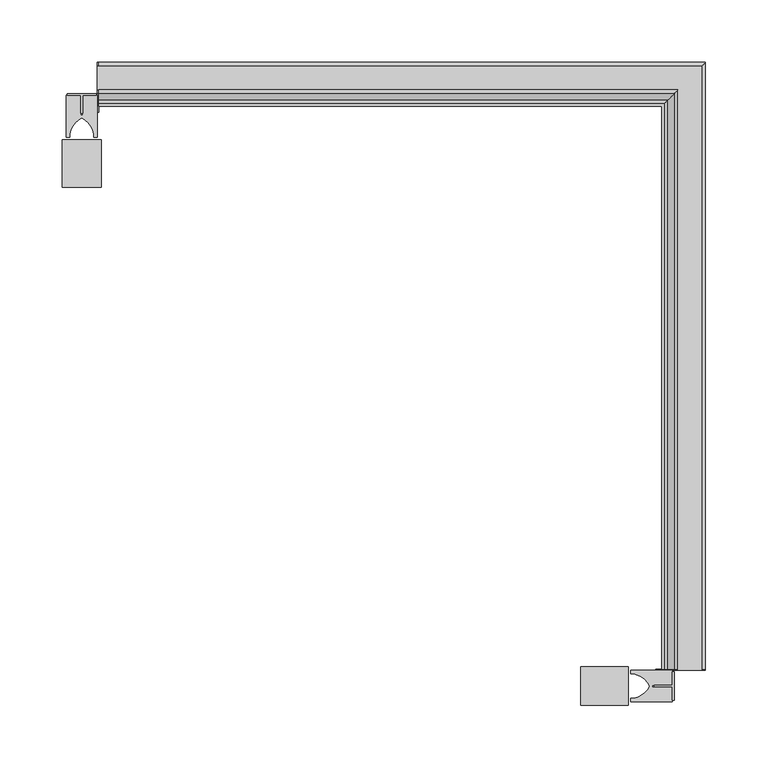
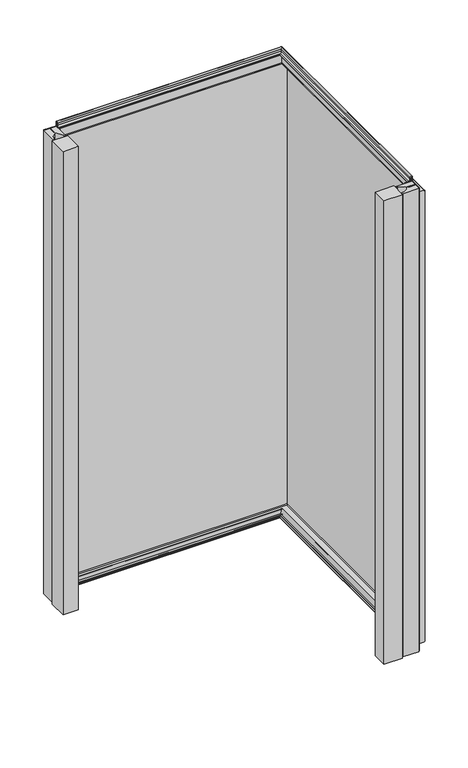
"""IFC4 building model written with IfcOpenShell, lengths in millimetres: plate geometry, Угловой модуль Fronttop : Угловой модуль Fronttop 100/1000."""

from ifc_helpers import new_model, si_unit, point, frame, frame_2d, origin, origin_with_axes, place, context, project, spatial, polyline, circle_curve, ellipse_curve, trimmed, segment, composite_curve, outline, extrude, source, transform, mapped, element, save
from ifc_brep_helpers import plane_surface, cylinder_surface, revolved_surface, advanced_brep


def plate_e8e85041(model_context):
    return source(origin(), model_context, "Body", "SolidModel", [
        extrude(outline(polyline([(225.0, -388.4948846), (225.0, -411.5051154), (223.5, -411.5051154), (223.5, -400.6502496), (209.0759655, -400.6502496), (209.0759655, -399.35), (223.5, -399.35), (223.5, -388.4948846), (225.0, -388.4948846)])), origin_with_axes(), (0.0, 0.0, 1.0), 1000.0),
        extrude(outline(composite_curve([segment(polyline([(223.5, -387.4998455), (223.5, -399.25), (207.5, -399.25), (207.5, -400.75), (223.5, -400.75), (223.5, -412.5001545), (190.0, -412.5001545), (190.0, -409.75), (192.5, -409.75)]), True, "CONTINUOUS"), segment(trimmed(circle_curve(frame_2d((189.3183984, -391.9661979)), 18.0661619), [point((192.5, -409.75))], [point((205.5, -400.0))], True, "CARTESIAN"), True, "CONTINUOUS"), segment(trimmed(circle_curve(frame_2d((189.3183984, -408.0338021)), 18.0661619), [point((205.5, -400.0))], [point((192.5, -390.25))], True, "CARTESIAN"), True, "CONTINUOUS"), segment(polyline([(192.5, -390.25), (190.0, -390.25), (190.0, -387.4998455), (223.5, -387.4998455)]), True, "CONTINUOUS")], self_intersect=False)), origin_with_axes(), (0.0, 0.0, 1.0), 1000.0),
        extrude(outline(polyline([(150.0, -415.5), (150.0, -384.5), (188.0, -384.5), (188.0, -415.5), (150.0, -415.5)])), origin_with_axes(), (0.0, 0.0, 1.0), 1000.0),
        extrude(outline(polyline([(-261.5051154, 75.0), (-238.4948846, 75.0), (-238.4948846, 73.5), (-249.3497504, 73.5), (-249.3497504, 59.0759655), (-250.65, 59.0759655), (-250.65, 73.5), (-261.5051154, 73.5), (-261.5051154, 75.0)])), origin_with_axes(), (0.0, 0.0, 1.0), 1000.0),
        extrude(outline(composite_curve([segment(polyline([(-262.5001545, 73.5), (-250.75, 73.5), (-250.75, 57.5), (-249.25, 57.5), (-249.25, 73.5), (-237.4998455, 73.5), (-237.4998455, 40.0), (-240.25, 40.0), (-240.25, 42.5)]), True, "CONTINUOUS"), segment(trimmed(circle_curve(frame_2d((-258.0338021, 39.3183984)), 18.0661619), [point((-240.25, 42.5))], [point((-250.0, 55.5))], True, "CARTESIAN"), True, "CONTINUOUS"), segment(trimmed(circle_curve(frame_2d((-241.9661979, 39.3183984)), 18.0661619), [point((-250.0, 55.5))], [point((-259.75, 42.5))], True, "CARTESIAN"), True, "CONTINUOUS"), segment(polyline([(-259.75, 42.5), (-259.75, 40.0), (-262.5001545, 40.0), (-262.5001545, 73.5)]), True, "CONTINUOUS")], self_intersect=False)), origin_with_axes(), (0.0, 0.0, 1.0), 1000.0),
        extrude(outline(polyline([(-234.5, 0.0), (-265.5, 0.0), (-265.5, 38.0), (-234.5, 38.0), (-234.5, 0.0)])), origin_with_axes(), (0.0, 0.0, 1.0), 1000.0),
        advanced_brep(
        [(-236.5, 74.0, 1008.0), (-236.5, 71.0, 1008.0), (-236.5, 71.0, 1004.0), (-236.5, 67.0, 1000.0), (-236.5, 65.0, 1000.0), (-236.5, 65.0, 1001.0), (-236.5, 67.0, 1001.0), (-236.5, 70.0, 1004.0), (-236.5, 70.0, 1008.0), (-236.5, 75.0, 1008.0), (-236.5, 75.0, 1000.0), (-236.5, 74.0, 1000.0), (-236.5, 65.0, 2.0), (215.0, 65.0, 2.0), (215.0, 65.0, 3.0), (-236.5, 65.0, 3.0), (215.0, -386.5, 3.0), (217.0, -386.5, 3.0), (217.0, 67.0, 3.0), (-236.5, 67.0, 3.0), (218.0, 68.0, 4.0), (-236.5, 68.0, 4.0), (218.0, 68.0, 8.0), (-236.5, 68.0, 8.0), (227.0, 77.0, 8.0), (-236.5, 77.0, 8.0), (227.0, 77.0, 0.0), (-236.5, 77.0, 0.0), (229.0, 79.0, -2.0), (-236.5, 79.0, -2.0), (229.0, -386.5, -2.0), (247.0, -386.5, -2.0), (247.0, 97.0, -2.0), (-236.5, 97.0, -2.0), (249.0, 99.0, 0.0), (-236.5, 99.0, 0.0), (249.0, 99.0, 969.0), (-236.5, 99.0, 969.0), (247.0, 97.0, 971.0), (-236.5, 97.0, 971.0), (247.0, -386.5, 971.0), (228.0, -386.5, 971.0), (228.0, 78.0, 971.0), (-236.5, 78.0, 971.0), (224.0, 74.0, 975.0), (-236.5, 74.0, 975.0), (224.0, 74.0, 1008.0), (221.0, 71.0, 1008.0), (221.0, 71.0, 1004.0), (217.0, 67.0, 1000.0), (217.0, -386.5, 1000.0), (215.0, -386.5, 1000.0), (215.0, 65.0, 1000.0), (215.0, 65.0, 1001.0), (215.0, -386.5, 1001.0), (217.0, -386.5, 1001.0), (217.0, 67.0, 1001.0), (220.0, 70.0, 1004.0), (220.0, 70.0, 1008.0), (225.0, 75.0, 1008.0), (225.0, 75.0, 975.0), (-236.5, 75.0, 975.0), (-237.5, 75.0, 975.0), (-237.5, 75.0, 1000.0), (228.0, 78.0, 972.0), (-236.5, 78.0, 972.0), (228.0, -386.5, 972.0), (228.0, -387.5, 972.0), (247.0, -387.5, 972.0), (247.0, -386.5, 972.0), (247.0, 97.0, 972.0), (-236.5, 97.0, 972.0), (-237.5, 97.0, 972.0), (-237.5, 78.0, 972.0), (250.0, 100.0, 969.0), (-236.5, 100.0, 969.0), (250.0, 100.0, 0.0), (-236.5, 100.0, 0.0), (-237.5, 100.0, 0.0), (-237.5, 100.0, 969.0), (247.0, 97.0, -3.0), (-236.5, 97.0, -3.0), (247.0, -386.5, -3.0), (247.0, -387.5, -3.0), (225.0, -387.5, -3.0), (225.0, -386.5, -3.0), (229.0, -386.5, -3.0), (229.0, 79.0, -3.0), (-236.5, 79.0, -3.0), (-236.5, 75.0, -3.0), (-237.5, 75.0, -3.0), (-237.5, 97.0, -3.0), (226.0, 76.0, 0.0), (-236.5, 76.0, 0.0), (226.0, 76.0, 8.0), (-236.5, 76.0, 8.0), (219.0, 69.0, 8.0), (-236.5, 69.0, 8.0), (219.0, 69.0, 4.0), (-236.5, 69.0, 4.0), (217.0, 67.0, 2.0), (-236.5, 67.0, 2.0), (217.0, -386.5, 2.0), (215.0, -386.5, 2.0), (221.0, -386.5, 1004.0), (221.0, -386.5, 1008.0), (224.0, -386.5, 1008.0), (224.0, -386.5, 1000.0), (225.0, -386.5, 1000.0), (225.0, -386.5, 1008.0), (220.0, -386.5, 1008.0), (220.0, -386.5, 1004.0), (218.0, -386.5, 4.0), (218.0, -386.5, 8.0), (227.0, -386.5, 8.0), (227.0, -386.5, 0.0), (249.0, -386.5, 0.0), (249.0, -386.5, 969.0), (224.0, -386.5, 975.0), (225.0, -387.5, 1000.0), (225.0, -387.5, 975.0), (225.0, -386.5, 975.0), (250.0, -386.5, 969.0), (250.0, -387.5, 969.0), (250.0, -387.5, 0.0), (250.0, -386.5, 0.0), (226.0, -386.5, 0.0), (226.0, -386.5, 8.0), (219.0, -386.5, 8.0), (219.0, -386.5, 4.0), (-236.5, 60.0, 1000.0), (-236.5, 60.0, 0.0), (-236.5, 75.0, 0.0), (-237.5, 75.0, 0.0), (-237.5, 60.0, 0.0), (-237.5, 60.0, 1000.0), (210.0, -386.5, 0.0), (210.0, -386.5, 1000.0), (225.0, -386.5, 0.0), (210.0, -387.5, 0.0), (225.0, -387.5, 0.0), (210.0, -387.5, 1000.0)],
        [
            (0, 1, circle_curve(frame((-236.5, 72.5, 1008.0), z_axis=(1.0, 0.0, 0.0), x_axis=(0.0, -1.0, 0.0)), 1.5)),
            (1, 2),
            (2, 3, circle_curve(frame((-236.5, 67.0, 1004.0), z_axis=(-1.0, 0.0, 0.0), x_axis=(0.0, -1.0, 0.0)), 4.0)),
            (3, 4),
            (4, 5),
            (5, 6),
            (6, 7, circle_curve(frame((-236.5, 67.0, 1004.0), z_axis=(1.0, 0.0, 0.0), x_axis=(0.0, -1.0, 0.0)), 3.0)),
            (7, 8),
            (8, 9, circle_curve(frame((-236.5, 72.5, 1008.0), z_axis=(-1.0, 0.0, 0.0), x_axis=(0.0, -1.0, 0.0)), 2.5)),
            (9, 10),
            (10, 11),
            (11, 0),
            (12, 13),
            (13, 14),
            (14, 15),
            (15, 12),
            (14, 16),
            (16, 17),
            (17, 18),
            (18, 19),
            (19, 15),
            (18, 20, ellipse_curve(frame((217.0, 67.0, 4.0), z_axis=(0.7071067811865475, -0.7071067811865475, 0.0), x_axis=(0.7071067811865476, 0.7071067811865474, 0.0)), 1.4142136, 1.0)),
            (20, 21),
            (21, 19, circle_curve(frame((-236.5, 67.0, 4.0), z_axis=(-1.0, 0.0, 0.0), x_axis=(0.0, -1.0, 0.0)), 1.0)),
            (20, 22),
            (22, 23),
            (23, 21),
            (22, 24, ellipse_curve(frame((222.5, 72.5, 8.0), z_axis=(-0.7071067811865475, 0.7071067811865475, 0.0), x_axis=(-0.7071067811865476, -0.7071067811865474, 0.0)), 6.363961, 4.5)),
            (24, 25),
            (25, 23, circle_curve(frame((-236.5, 72.5, 8.0), z_axis=(1.0, 0.0, 0.0), x_axis=(0.0, -1.0, 0.0)), 4.5)),
            (24, 26),
            (26, 27),
            (27, 25),
            (26, 28, ellipse_curve(frame((229.0, 79.0, 0.0), z_axis=(0.7071067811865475, -0.7071067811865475, 0.0), x_axis=(0.7071067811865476, 0.7071067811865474, 0.0)), 2.8284271, 2.0)),
            (28, 29),
            (29, 27, circle_curve(frame((-236.5, 79.0, 0.0), z_axis=(-1.0, 0.0, 0.0), x_axis=(0.0, -1.0, 0.0)), 2.0)),
            (28, 30),
            (30, 31),
            (31, 32),
            (32, 33),
            (33, 29),
            (32, 34, ellipse_curve(frame((247.0, 97.0, 0.0), z_axis=(0.7071067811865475, -0.7071067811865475, 0.0), x_axis=(0.7071067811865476, 0.7071067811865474, 0.0)), 2.8284271, 2.0)),
            (34, 35),
            (35, 33, circle_curve(frame((-236.5, 97.0, 0.0), z_axis=(-1.0, 0.0, 0.0), x_axis=(0.0, -1.0, 0.0)), 2.0)),
            (34, 36),
            (36, 37),
            (37, 35),
            (36, 38, ellipse_curve(frame((247.0, 97.0, 969.0), z_axis=(0.7071067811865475, -0.7071067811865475, 0.0), x_axis=(0.7071067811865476, 0.7071067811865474, 0.0)), 2.8284271, 2.0)),
            (38, 39),
            (39, 37, circle_curve(frame((-236.5, 97.0, 969.0), z_axis=(-1.0, 0.0, 0.0), x_axis=(0.0, -1.0, 0.0)), 2.0)),
            (38, 40),
            (40, 41),
            (41, 42),
            (42, 43),
            (43, 39),
            (42, 44, ellipse_curve(frame((228.0, 78.0, 975.0), z_axis=(-0.7071067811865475, 0.7071067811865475, 0.0), x_axis=(-0.7071067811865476, -0.7071067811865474, 0.0)), 5.6568542, 4.0)),
            (44, 45),
            (45, 43, circle_curve(frame((-236.5, 78.0, 975.0), z_axis=(1.0, 0.0, 0.0), x_axis=(0.0, -1.0, 0.0)), 4.0)),
            (44, 46),
            (46, 0),
            (11, 45),
            (46, 47, ellipse_curve(frame((222.5, 72.5, 1008.0), z_axis=(0.7071067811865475, -0.7071067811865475, 0.0), x_axis=(0.7071067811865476, 0.7071067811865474, 0.0)), 2.1213203, 1.5)),
            (47, 1),
            (47, 48),
            (48, 2),
            (48, 49, ellipse_curve(frame((217.0, 67.0, 1004.0), z_axis=(-0.7071067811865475, 0.7071067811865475, 0.0), x_axis=(-0.7071067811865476, -0.7071067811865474, 0.0)), 5.6568542, 4.0)),
            (49, 3),
            (49, 50),
            (50, 51),
            (51, 52),
            (52, 4),
            (4, 3),
            (52, 53),
            (53, 5),
            (53, 54),
            (54, 55),
            (55, 56),
            (56, 6),
            (56, 57, ellipse_curve(frame((217.0, 67.0, 1004.0), z_axis=(0.7071067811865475, -0.7071067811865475, 0.0), x_axis=(0.7071067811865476, 0.7071067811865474, 0.0)), 4.2426407, 3.0)),
            (57, 7),
            (57, 58),
            (58, 8),
            (58, 59, ellipse_curve(frame((222.5, 72.5, 1008.0), z_axis=(-0.7071067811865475, 0.7071067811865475, 0.0), x_axis=(-0.7071067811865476, -0.7071067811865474, 0.0)), 3.5355339, 2.5)),
            (59, 9),
            (59, 60),
            (60, 61),
            (61, 62),
            (62, 63),
            (63, 10),
            (60, 64, ellipse_curve(frame((228.0, 78.0, 975.0), z_axis=(0.7071067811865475, -0.7071067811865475, 0.0), x_axis=(0.7071067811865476, 0.7071067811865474, 0.0)), 4.2426407, 3.0)),
            (64, 65),
            (65, 61, circle_curve(frame((-236.5, 78.0, 975.0), z_axis=(-1.0, 0.0, 0.0), x_axis=(0.0, -1.0, 0.0)), 3.0)),
            (64, 66),
            (66, 67),
            (67, 68),
            (68, 69),
            (69, 70),
            (70, 71),
            (71, 72),
            (72, 73),
            (73, 65),
            (70, 74, ellipse_curve(frame((247.0, 97.0, 969.0), z_axis=(-0.7071067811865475, 0.7071067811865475, 0.0), x_axis=(-0.7071067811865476, -0.7071067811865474, 0.0)), 4.2426407, 3.0)),
            (74, 75),
            (75, 71, circle_curve(frame((-236.5, 97.0, 969.0), z_axis=(1.0, 0.0, 0.0), x_axis=(0.0, -1.0, 0.0)), 3.0)),
            (74, 76),
            (76, 77),
            (77, 78),
            (78, 79),
            (79, 75),
            (76, 80, ellipse_curve(frame((247.0, 97.0, 0.0), z_axis=(-0.7071067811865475, 0.7071067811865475, 0.0), x_axis=(-0.7071067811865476, -0.7071067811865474, 0.0)), 4.2426407, 3.0)),
            (80, 81),
            (81, 77, circle_curve(frame((-236.5, 97.0, 0.0), z_axis=(1.0, 0.0, 0.0), x_axis=(0.0, -1.0, 0.0)), 3.0)),
            (80, 82),
            (82, 83),
            (83, 84),
            (84, 85),
            (85, 86),
            (86, 87),
            (87, 88),
            (88, 89),
            (89, 90),
            (90, 91),
            (91, 81),
            (87, 92, ellipse_curve(frame((229.0, 79.0, 0.0), z_axis=(-0.7071067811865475, 0.7071067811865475, 0.0), x_axis=(-0.7071067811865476, -0.7071067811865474, 0.0)), 4.2426407, 3.0)),
            (92, 93),
            (93, 88, circle_curve(frame((-236.5, 79.0, 0.0), z_axis=(1.0, 0.0, 0.0), x_axis=(0.0, -1.0, 0.0)), 3.0)),
            (92, 94),
            (94, 95),
            (95, 93),
            (94, 96, ellipse_curve(frame((222.5, 72.5, 8.0), z_axis=(0.7071067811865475, -0.7071067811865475, 0.0), x_axis=(0.7071067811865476, 0.7071067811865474, 0.0)), 4.9497475, 3.5)),
            (96, 97),
            (97, 95, circle_curve(frame((-236.5, 72.5, 8.0), z_axis=(-1.0, 0.0, 0.0), x_axis=(0.0, -1.0, 0.0)), 3.5)),
            (96, 98),
            (98, 99),
            (99, 97),
            (98, 100, ellipse_curve(frame((217.0, 67.0, 4.0), z_axis=(-0.7071067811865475, 0.7071067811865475, 0.0), x_axis=(-0.7071067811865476, -0.7071067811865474, 0.0)), 2.8284271, 2.0)),
            (100, 101),
            (101, 99, circle_curve(frame((-236.5, 67.0, 4.0), z_axis=(1.0, 0.0, 0.0), x_axis=(0.0, -1.0, 0.0)), 2.0)),
            (12, 101),
            (100, 102),
            (102, 103),
            (103, 13),
            (54, 51),
            (51, 50),
            (50, 104, circle_curve(frame((217.0, -386.5, 1004.0), z_axis=(0.0, -1.0, 0.0), x_axis=(-1.0, 0.0, 0.0)), 4.0)),
            (104, 105),
            (105, 106, circle_curve(frame((222.5, -386.5, 1008.0), z_axis=(0.0, 1.0, 0.0), x_axis=(-1.0, 0.0, 0.0)), 1.5)),
            (106, 107),
            (107, 108),
            (108, 109),
            (109, 110, circle_curve(frame((222.5, -386.5, 1008.0), z_axis=(0.0, -1.0, 0.0), x_axis=(-1.0, 0.0, 0.0)), 2.5)),
            (110, 111),
            (111, 55, circle_curve(frame((217.0, -386.5, 1004.0), z_axis=(0.0, 1.0, 0.0), x_axis=(-1.0, 0.0, 0.0)), 3.0)),
            (103, 16),
            (17, 112, circle_curve(frame((217.0, -386.5, 4.0), z_axis=(0.0, -1.0, 0.0), x_axis=(-1.0, 0.0, 0.0)), 1.0)),
            (112, 20),
            (112, 113),
            (113, 22),
            (113, 114, circle_curve(frame((222.5, -386.5, 8.0), z_axis=(0.0, 1.0, 0.0), x_axis=(-1.0, 0.0, 0.0)), 4.5)),
            (114, 24),
            (114, 115),
            (115, 26),
            (115, 30, circle_curve(frame((229.0, -386.5, 0.0), z_axis=(0.0, -1.0, 0.0), x_axis=(-1.0, 0.0, 0.0)), 2.0)),
            (31, 116, circle_curve(frame((247.0, -386.5, 0.0), z_axis=(0.0, -1.0, 0.0), x_axis=(-1.0, 0.0, 0.0)), 2.0)),
            (116, 34),
            (116, 117),
            (117, 36),
            (117, 40, circle_curve(frame((247.0, -386.5, 969.0), z_axis=(0.0, -1.0, 0.0), x_axis=(-1.0, 0.0, 0.0)), 2.0)),
            (41, 118, circle_curve(frame((228.0, -386.5, 975.0), z_axis=(0.0, 1.0, 0.0), x_axis=(-1.0, 0.0, 0.0)), 4.0)),
            (118, 44),
            (118, 107),
            (106, 46),
            (105, 47),
            (104, 48),
            (111, 57),
            (110, 58),
            (109, 59),
            (108, 119),
            (119, 120),
            (120, 121),
            (121, 60),
            (121, 66, circle_curve(frame((228.0, -386.5, 975.0), z_axis=(0.0, -1.0, 0.0), x_axis=(-1.0, 0.0, 0.0)), 3.0)),
            (69, 122, circle_curve(frame((247.0, -386.5, 969.0), z_axis=(0.0, 1.0, 0.0), x_axis=(-1.0, 0.0, 0.0)), 3.0)),
            (122, 74),
            (122, 123),
            (123, 124),
            (124, 125),
            (125, 76),
            (125, 82, circle_curve(frame((247.0, -386.5, 0.0), z_axis=(0.0, 1.0, 0.0), x_axis=(-1.0, 0.0, 0.0)), 3.0)),
            (86, 126, circle_curve(frame((229.0, -386.5, 0.0), z_axis=(0.0, 1.0, 0.0), x_axis=(-1.0, 0.0, 0.0)), 3.0)),
            (126, 92),
            (126, 127),
            (127, 94),
            (127, 128, circle_curve(frame((222.5, -386.5, 8.0), z_axis=(0.0, -1.0, 0.0), x_axis=(-1.0, 0.0, 0.0)), 3.5)),
            (128, 96),
            (128, 129),
            (129, 98),
            (129, 102, circle_curve(frame((217.0, -386.5, 4.0), z_axis=(0.0, 1.0, 0.0), x_axis=(-1.0, 0.0, 0.0)), 2.0)),
            (130, 131),
            (131, 132),
            (132, 89),
            (11, 3),
            (4, 130),
            (62, 73, circle_curve(frame((-237.5, 78.0, 975.0), z_axis=(1.0, 0.0, 0.0), x_axis=(0.0, 1.0, 0.0)), 3.0)),
            (72, 79, circle_curve(frame((-237.5, 97.0, 969.0), z_axis=(-1.0, 0.0, 0.0), x_axis=(0.0, 1.0, 0.0)), 3.0)),
            (78, 91, circle_curve(frame((-237.5, 97.0, 0.0), z_axis=(-1.0, 0.0, 0.0), x_axis=(0.0, 1.0, 0.0)), 3.0)),
            (90, 133),
            (133, 134),
            (134, 135),
            (135, 63),
            (135, 130),
            (134, 131),
            (133, 132),
            (136, 137),
            (137, 51),
            (50, 107),
            (85, 138),
            (138, 136),
            (139, 140),
            (140, 84),
            (83, 124, circle_curve(frame((247.0, -387.5, 0.0), z_axis=(0.0, -1.0, 0.0), x_axis=(-1.0, 0.0, 0.0)), 3.0)),
            (123, 68, circle_curve(frame((247.0, -387.5, 969.0), z_axis=(0.0, -1.0, 0.0), x_axis=(-1.0, 0.0, 0.0)), 3.0)),
            (67, 120, circle_curve(frame((228.0, -387.5, 975.0), z_axis=(0.0, 1.0, 0.0), x_axis=(-1.0, 0.0, 0.0)), 3.0)),
            (119, 141),
            (141, 139),
            (138, 140),
            (139, 136),
            (137, 141),
        ],
        [
            plane_surface(frame((-236.5, 0.0, 0.0), z_axis=(-1.0, 0.0, 0.0), x_axis=(0.0, 0.0, 1.0))),
            plane_surface(frame((-236.5, 65.0, 2.0), z_axis=(0.0, -1.0, 0.0), x_axis=(1.0, 0.0, 0.0))),
            plane_surface(frame((-236.5, 65.0, 3.0), z_axis=(0.0, 0.0, 1.0), x_axis=(1.0, 0.0, 0.0))),
            revolved_surface(polyline([(218.00000002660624, 66.0, 4.0), (-236.5, 66.0, 4.0)]), (-236.5, 67.0, 4.0), (1.0, 0.0, 0.0)),
            plane_surface(frame((-236.5, 68.0, 4.0), z_axis=(0.0, -1.0, 0.0), x_axis=(1.0, 0.0, 0.0))),
            cylinder_surface(frame((-236.5, 72.5, 8.0), z_axis=(-1.0, 0.0, 0.0), x_axis=(0.0, -1.0, 0.0)), 4.5),
            plane_surface(frame((-236.5, 77.0, 8.0), z_axis=(0.0, 1.0, 0.0), x_axis=(1.0, 0.0, 0.0))),
            revolved_surface(polyline([(230.99999998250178, 77.0, 0.0), (-236.5, 77.0, 0.0)]), (-236.5, 79.0, 0.0), (1.0, 0.0, 0.0)),
            plane_surface(frame((-236.5, 79.0, -2.0), z_axis=(0.0, 0.0, 1.0), x_axis=(1.0, 0.0, 0.0))),
            revolved_surface(polyline([(249.0, 95.0, 0.0), (-236.5, 95.0, 0.0)]), (-236.5, 97.0, 0.0), (1.0, 0.0, 0.0)),
            plane_surface(frame((-236.5, 99.0, 0.0), z_axis=(0.0, -1.0, 0.0), x_axis=(1.0, 0.0, 0.0))),
            revolved_surface(polyline([(249.0, 95.0, 969.0), (-236.5, 95.0, 969.0)]), (-236.5, 97.0, 969.0), (1.0, 0.0, 0.0)),
            plane_surface(frame((-236.5, 97.0, 971.0), z_axis=(0.0, 0.0, -1.0), x_axis=(1.0, 0.0, 0.0))),
            cylinder_surface(frame((-236.5, 78.0, 975.0), z_axis=(-1.0, 0.0, 0.0), x_axis=(0.0, -1.0, 0.0)), 4.0),
            plane_surface(frame((-236.5, 74.0, 975.0), z_axis=(0.0, -1.0, 0.0), x_axis=(1.0, 0.0, 0.0))),
            revolved_surface(polyline([(224.0, 71.0, 1008.0), (-236.5, 71.0, 1008.0)]), (-236.5, 72.5, 1008.0), (1.0, 0.0, 0.0)),
            plane_surface(frame((-236.5, 71.0, 1008.0), z_axis=(0.0, 1.0, 0.0), x_axis=(1.0, 0.0, 0.0))),
            cylinder_surface(frame((-236.5, 67.0, 1004.0), z_axis=(-1.0, 0.0, 0.0), x_axis=(0.0, -1.0, 0.0)), 4.0),
            plane_surface(frame((-236.5, 67.0, 1000.0), z_axis=(0.0, 0.0, -1.0), x_axis=(1.0, 0.0, 0.0))),
            plane_surface(frame((-236.5, 65.0, 1000.0), z_axis=(0.0, -1.0, 0.0), x_axis=(1.0, 0.0, 0.0))),
            plane_surface(frame((-236.5, 65.0, 1001.0), z_axis=(0.0, 0.0, 1.0), x_axis=(1.0, 0.0, 0.0))),
            revolved_surface(polyline([(220.00000000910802, 64.0, 1004.0), (-236.5, 64.0, 1004.0)]), (-236.5, 67.0, 1004.0), (1.0, 0.0, 0.0)),
            plane_surface(frame((-236.5, 70.0, 1004.0), z_axis=(0.0, -1.0, 0.0), x_axis=(1.0, 0.0, 0.0))),
            cylinder_surface(frame((-236.5, 72.5, 1008.0), z_axis=(-1.0, 0.0, 0.0), x_axis=(0.0, -1.0, 0.0)), 2.5),
            plane_surface(frame((-236.5, 75.0, 1008.0), z_axis=(0.0, 1.0, 0.0), x_axis=(1.0, 0.0, 0.0))),
            revolved_surface(polyline([(231.00000000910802, 75.0, 975.0), (-236.5, 75.0, 975.0)]), (-236.5, 78.0, 975.0), (1.0, 0.0, 0.0)),
            plane_surface(frame((-236.5, 78.0, 972.0), z_axis=(0.0, 0.0, 1.0), x_axis=(1.0, 0.0, 0.0))),
            cylinder_surface(frame((-236.5, 97.0, 969.0), z_axis=(-1.0, 0.0, 0.0), x_axis=(0.0, -1.0, 0.0)), 3.0),
            plane_surface(frame((-236.5, 100.0, 969.0), z_axis=(0.0, 1.0, 0.0), x_axis=(1.0, 0.0, 0.0))),
            cylinder_surface(frame((-236.5, 97.0, 0.0), z_axis=(-1.0, 0.0, 0.0), x_axis=(0.0, -1.0, 0.0)), 3.0),
            plane_surface(frame((-236.5, 97.0, -3.0), z_axis=(0.0, 0.0, -1.0), x_axis=(1.0, 0.0, 0.0))),
            cylinder_surface(frame((-236.5, 79.0, 0.0), z_axis=(-1.0, 0.0, 0.0), x_axis=(0.0, -1.0, 0.0)), 3.0),
            plane_surface(frame((-236.5, 76.0, 0.0), z_axis=(0.0, -1.0, 0.0), x_axis=(1.0, 0.0, 0.0))),
            revolved_surface(polyline([(226.00000002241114, 69.0, 8.0), (-236.5, 69.0, 8.0)]), (-236.5, 72.5, 8.0), (1.0, 0.0, 0.0)),
            plane_surface(frame((-236.5, 69.0, 8.0), z_axis=(0.0, 1.0, 0.0), x_axis=(1.0, 0.0, 0.0))),
            cylinder_surface(frame((-236.5, 67.0, 4.0), z_axis=(-1.0, 0.0, 0.0), x_axis=(0.0, -1.0, 0.0)), 2.0),
            plane_surface(frame((-236.5, 67.0, 2.0), z_axis=(0.0, 0.0, -1.0), x_axis=(1.0, 0.0, 0.0))),
            plane_surface(frame((150.0, -386.5, 0.0), z_axis=(0.0, -1.0, 0.0), x_axis=(0.0, 0.0, 1.0))),
            plane_surface(frame((215.0, 65.0, 2.0), z_axis=(-1.0, 0.0, 0.0), x_axis=(0.0, -1.0, 0.0))),
            revolved_surface(polyline([(216.0, -386.5, 4.0), (216.0, 68.00000002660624, 4.0)]), (217.0, 0.0, 4.0), (0.0, -1.0, 0.0)),
            plane_surface(frame((218.0, 68.0, 4.0), z_axis=(-1.0, 0.0, 0.0), x_axis=(0.0, -1.0, 0.0))),
            cylinder_surface(frame((222.5, 0.0, 8.0), z_axis=(0.0, 1.0, 0.0), x_axis=(-1.0, 0.0, 0.0)), 4.5),
            plane_surface(frame((227.0, 77.0, 8.0), z_axis=(1.0, 0.0, 0.0), x_axis=(0.0, -1.0, 0.0))),
            revolved_surface(polyline([(227.0, -386.5, 0.0), (227.0, 80.9999999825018, 0.0)]), (229.0, 0.0, 0.0), (0.0, -1.0, 0.0)),
            revolved_surface(polyline([(245.0, -386.5, 0.0), (245.0, 99.0, 0.0)]), (247.0, 0.0, 0.0), (0.0, -1.0, 0.0)),
            plane_surface(frame((249.0, 99.0, 0.0), z_axis=(-1.0, 0.0, 0.0), x_axis=(0.0, -1.0, 0.0))),
            revolved_surface(polyline([(245.0, -386.5, 969.0), (245.0, 99.0, 969.0)]), (247.0, 0.0, 969.0), (0.0, -1.0, 0.0)),
            cylinder_surface(frame((228.0, 0.0, 975.0), z_axis=(0.0, 1.0, 0.0), x_axis=(-1.0, 0.0, 0.0)), 4.0),
            plane_surface(frame((224.0, 74.0, 975.0), z_axis=(-1.0, 0.0, 0.0), x_axis=(0.0, -1.0, 0.0))),
            revolved_surface(polyline([(221.0, -386.5, 1008.0), (221.0, 74.0, 1008.0)]), (222.5, 0.0, 1008.0), (0.0, -1.0, 0.0)),
            plane_surface(frame((221.0, 71.0, 1008.0), z_axis=(1.0, 0.0, 0.0), x_axis=(0.0, -1.0, 0.0))),
            cylinder_surface(frame((217.0, 0.0, 1004.0), z_axis=(0.0, 1.0, 0.0), x_axis=(-1.0, 0.0, 0.0)), 4.0),
            plane_surface(frame((215.0, 65.0, 1000.0), z_axis=(-1.0, 0.0, 0.0), x_axis=(0.0, -1.0, 0.0))),
            revolved_surface(polyline([(214.0, -386.5, 1004.0), (214.0, 70.00000000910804, 1004.0)]), (217.0, 0.0, 1004.0), (0.0, -1.0, 0.0)),
            plane_surface(frame((220.0, 70.0, 1004.0), z_axis=(-1.0, 0.0, 0.0), x_axis=(0.0, -1.0, 0.0))),
            cylinder_surface(frame((222.5, 0.0, 1008.0), z_axis=(0.0, 1.0, 0.0), x_axis=(-1.0, 0.0, 0.0)), 2.5),
            plane_surface(frame((225.0, 75.0, 1008.0), z_axis=(1.0, 0.0, 0.0), x_axis=(0.0, -1.0, 0.0))),
            revolved_surface(polyline([(225.0, -386.5, 975.0), (225.0, 81.00000000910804, 975.0)]), (228.0, 0.0, 975.0), (0.0, -1.0, 0.0)),
            cylinder_surface(frame((247.0, 0.0, 969.0), z_axis=(0.0, 1.0, 0.0), x_axis=(-1.0, 0.0, 0.0)), 3.0),
            plane_surface(frame((250.0, 100.0, 969.0), z_axis=(1.0, 0.0, 0.0), x_axis=(0.0, -1.0, 0.0))),
            cylinder_surface(frame((247.0, 0.0, 0.0), z_axis=(0.0, 1.0, 0.0), x_axis=(-1.0, 0.0, 0.0)), 3.0),
            cylinder_surface(frame((229.0, 0.0, 0.0), z_axis=(0.0, 1.0, 0.0), x_axis=(-1.0, 0.0, 0.0)), 3.0),
            plane_surface(frame((226.0, 76.0, 0.0), z_axis=(-1.0, 0.0, 0.0), x_axis=(0.0, -1.0, 0.0))),
            revolved_surface(polyline([(219.0, -386.5, 8.0), (219.0, 76.00000002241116, 8.0)]), (222.5, 0.0, 8.0), (0.0, -1.0, 0.0)),
            plane_surface(frame((219.0, 69.0, 8.0), z_axis=(1.0, 0.0, 0.0), x_axis=(0.0, -1.0, 0.0))),
            cylinder_surface(frame((217.0, 0.0, 4.0), z_axis=(0.0, 1.0, 0.0), x_axis=(-1.0, 0.0, 0.0)), 2.0),
            plane_surface(frame((-236.5, 75.0, 1000.0), z_axis=(1.0, 0.0, 0.0), x_axis=(0.0, -1.0, 0.0))),
            plane_surface(frame((-237.5, 75.0, 1000.0), z_axis=(-1.0, 0.0, 0.0), x_axis=(0.0, 1.0, 0.0))),
            plane_surface(frame((-236.5, 75.0, 1000.0), z_axis=(0.0, 0.0, 1.0), x_axis=(-1.0, 0.0, 0.0))),
            plane_surface(frame((-236.5, 60.0, 1000.0), z_axis=(0.0, -1.0, 0.0), x_axis=(-1.0, 0.0, 0.0))),
            plane_surface(frame((-236.5, 60.0, 0.0), z_axis=(0.0, 0.0, -1.0), x_axis=(-1.0, 0.0, 0.0))),
            plane_surface(frame((-236.5, 75.0, 0.0), z_axis=(0.0, -1.0, 0.0), x_axis=(-1.0, 0.0, 0.0))),
            cylinder_surface(frame((-237.5, 97.0, 0.0), z_axis=(1.0, 0.0, 0.0), x_axis=(0.0, 1.0, 0.0)), 3.0),
            cylinder_surface(frame((-237.5, 97.0, 969.0), z_axis=(1.0, 0.0, 0.0), x_axis=(0.0, 1.0, 0.0)), 3.0),
            revolved_surface(polyline([(-237.5, 81.0, 975.0), (-236.5, 81.0, 975.0)]), (-237.5, 78.0, 975.0), (-1.0, 0.0, 0.0)),
            plane_surface(frame((210.0, -386.5, 1000.0), z_axis=(0.0, 1.0, 0.0), x_axis=(0.0, 0.0, 1.0))),
            plane_surface(frame((210.0, -387.5, 1000.0), z_axis=(0.0, -1.0, 0.0), x_axis=(0.0, 0.0, -1.0))),
            plane_surface(frame((225.0, -386.5, 0.0), z_axis=(0.0, 0.0, -1.0), x_axis=(0.0, -1.0, 0.0))),
            plane_surface(frame((225.0, -386.5, -3.0), z_axis=(-1.0, 0.0, 0.0), x_axis=(0.0, -1.0, 0.0))),
            cylinder_surface(frame((247.0, -387.5, 0.0), z_axis=(0.0, 1.0, 0.0), x_axis=(-1.0, 0.0, 0.0)), 3.0),
            cylinder_surface(frame((247.0, -387.5, 969.0), z_axis=(0.0, 1.0, 0.0), x_axis=(-1.0, 0.0, 0.0)), 3.0),
            revolved_surface(polyline([(225.0, -387.5, 975.0), (225.0, -386.5, 975.0)]), (228.0, -387.5, 975.0), (0.0, -1.0, 0.0)),
            plane_surface(frame((210.0, -386.5, 1000.0), z_axis=(0.0, 0.0, 1.0), x_axis=(0.0, -1.0, 0.0))),
            plane_surface(frame((210.0, -386.5, 0.0), z_axis=(-1.0, 0.0, 0.0), x_axis=(0.0, -1.0, 0.0))),
        ],
        [
            (0, [[1, 2, 3, 4, 5, 6, 7, 8, 9, 10, 11, 12]]),
            (1, [[13, 14, 15, 16]]),
            (2, [[-15, 17, 18, 19, 20, 21]]),
            (3, [[-20, 22, 23, 24]]),
            (4, [[-23, 25, 26, 27]]),
            (5, [[-26, 28, 29, 30]]),
            (6, [[-29, 31, 32, 33]]),
            (7, [[-32, 34, 35, 36]]),
            (8, [[-35, 37, 38, 39, 40, 41]]),
            (9, [[-40, 42, 43, 44]]),
            (10, [[-43, 45, 46, 47]]),
            (11, [[-46, 48, 49, 50]]),
            (12, [[-49, 51, 52, 53, 54, 55]]),
            (13, [[-54, 56, 57, 58]]),
            (14, [[-57, 59, 60, -12, 61]]),
            (15, [[-1, -60, 62, 63]]),
            (16, [[-2, -63, 64, 65]]),
            (17, [[-3, -65, 66, 67]]),
            (18, [[-67, 68, 69, 70, 71, 72]]),
            (19, [[-5, -71, 73, 74]]),
            (20, [[-6, -74, 75, 76, 77, 78]]),
            (21, [[-7, -78, 79, 80]]),
            (22, [[-8, -80, 81, 82]]),
            (23, [[-9, -82, 83, 84]]),
            (24, [[-84, 85, 86, 87, 88, 89, -10]]),
            (25, [[-86, 90, 91, 92]]),
            (26, [[-91, 93, 94, 95, 96, 97, 98, 99, 100, 101]]),
            (27, [[-98, 102, 103, 104]]),
            (28, [[-103, 105, 106, 107, 108, 109]]),
            (29, [[-106, 110, 111, 112]]),
            (30, [[-111, 113, 114, 115, 116, 117, 118, 119, 120, 121, 122, 123]]),
            (31, [[-119, 124, 125, 126]]),
            (32, [[-125, 127, 128, 129]]),
            (33, [[-128, 130, 131, 132]]),
            (34, [[-131, 133, 134, 135]]),
            (35, [[-134, 136, 137, 138]]),
            (36, [[-13, 139, -137, 140, 141, 142]]),
            (37, [[-76, 143, 144, 145, 146, 147, 148, 149, 150, 151, 152, 153]]),
            (38, [[-14, -142, 154, -17]]),
            (39, [[-19, 155, 156, -22]]),
            (40, [[-25, -156, 157, 158]]),
            (41, [[-28, -158, 159, 160]]),
            (42, [[-31, -160, 161, 162]]),
            (43, [[-34, -162, 163, -37]]),
            (44, [[-39, 164, 165, -42]]),
            (45, [[-45, -165, 166, 167]]),
            (46, [[-48, -167, 168, -51]]),
            (47, [[-53, 169, 170, -56]]),
            (48, [[-59, -170, 171, -148, 172]]),
            (49, [[-62, -172, -147, 173]]),
            (50, [[-64, -173, -146, 174]]),
            (51, [[-66, -174, -145, -68]]),
            (52, [[-70, -143, -75, -73]]),
            (53, [[-77, -153, 175, -79]]),
            (54, [[-81, -175, -152, 176]]),
            (55, [[-83, -176, -151, 177]]),
            (56, [[-85, -177, -150, 178, 179, 180, 181]]),
            (57, [[-90, -181, 182, -93]]),
            (58, [[-97, 183, 184, -102]]),
            (59, [[-105, -184, 185, 186, 187, 188]]),
            (60, [[-110, -188, 189, -113]]),
            (61, [[-118, 190, 191, -124]]),
            (62, [[-127, -191, 192, 193]]),
            (63, [[-130, -193, 194, 195]]),
            (64, [[-133, -195, 196, 197]]),
            (65, [[-136, -197, 198, -140]]),
            (66, [[199, 200, 201, -120, -126, -129, -132, -135, -138, -139, -16, -21, -24, -27, -30, -33, -36, -41, -44, -47, -50, -55, -58, -61, 202, -72, 203]]),
            (67, [[-88, 204, -100, 205, -108, 206, -122, 207, 208, 209, 210]]),
            (68, [[-210, 211, -203, -4, -202, -11, -89]]),
            (69, [[-199, -211, -209, 212]]),
            (70, [[-200, -212, -208, 213]]),
            (71, [[-201, -213, -207, -121]]),
            (72, [[-206, -107, -112, -123]]),
            (73, [[-205, -99, -104, -109]]),
            (74, [[-204, -87, -92, -101]]),
            (75, [[214, 215, -69, 216, -171, -169, -52, -168, -166, -164, -38, -163, -161, -159, -157, -155, -18, -154, -141, -198, -196, -194, -192, -190, -117, 217, 218]]),
            (76, [[219, 220, -115, 221, -186, 222, -95, 223, -179, 224, 225]]),
            (77, [[-218, 226, -219, 227]]),
            (78, [[-217, -116, -220, -226]]),
            (79, [[-221, -114, -189, -187]]),
            (80, [[-222, -185, -183, -96]]),
            (81, [[-223, -94, -182, -180]]),
            (82, [[-224, -178, -149, -216, -144, -215, 228]]),
            (83, [[-214, -227, -225, -228]]),
        ],
    ),
    ])


if __name__ == "__main__":
    model = new_model("IFC4")
    model_context = context("Model", 3, world=origin())
    ifc_project = project(units=[si_unit("LENGTHUNIT", "METRE", prefix="MILLI")], contexts=[model_context])
    site = spatial("IfcSite", under=ifc_project)
    building = spatial("IfcBuilding", under=site)
    placement = place(None, origin())
    plate_shape = plate_e8e85041(model_context)
    element("IfcPlate", 1, ObjectType="Угловой модуль Fronttop : Угловой модуль Fronttop 100/1000", at=placement, inside=building, context=model_context, shape_type="MappedRepresentation", body=[
        mapped(plate_shape, transform((0.0, 0.0, 0.0), x_axis=(1.0, 0.0, 0.0), y_axis=(0.0, 1.0, 0.0), z_axis=(0.0, 0.0, 1.0))),
    ])
    save(model, "model.ifc")
